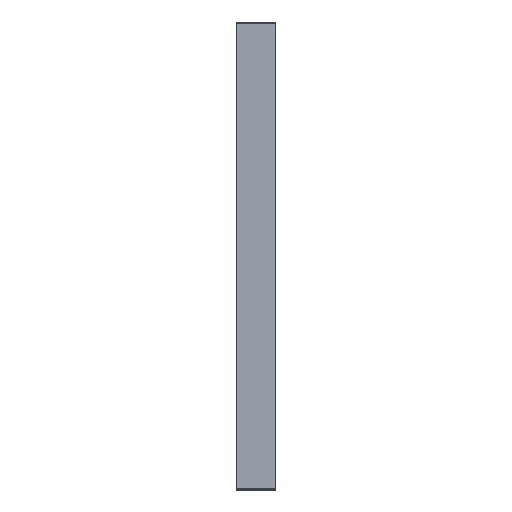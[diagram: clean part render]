
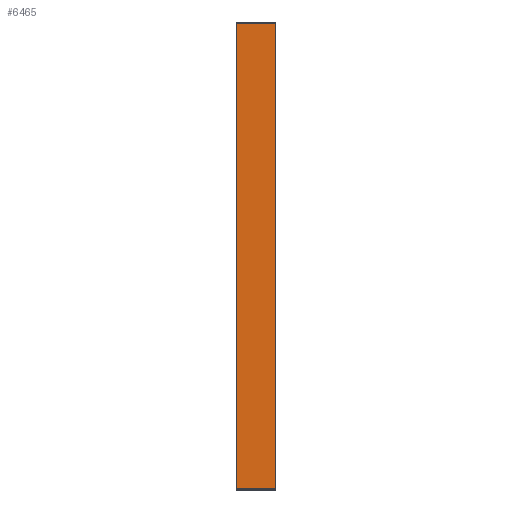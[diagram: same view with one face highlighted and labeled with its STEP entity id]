
A CAD part, left-side view. The second image highlights one B-rep face of the part: STEP entity #6465.
In plain terms, the highlighted planar face has unit normal (-1, 0, 0).
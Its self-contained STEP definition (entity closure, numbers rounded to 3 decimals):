
#217 = LINE ( 'NONE', #2711, #1871 ) ;
#1084 = EDGE_CURVE ( 'NONE', #1854, #5625, #3611, .T. ) ;
#1515 = ORIENTED_EDGE ( 'NONE', *, *, #7015, .T. ) ;
#1615 = ORIENTED_EDGE ( 'NONE', *, *, #3058, .F. ) ;
#1854 = VERTEX_POINT ( 'NONE', #4585 ) ;
#1863 = DIRECTION ( 'NONE',  ( 0., 0., -1. ) ) ;
#1871 = VECTOR ( 'NONE', #2028, 1000. ) ;
#2028 = DIRECTION ( 'NONE',  ( 0., 0., 1. ) ) ;
#2711 = CARTESIAN_POINT ( 'NONE',  ( -21.25, -0.75, 870. ) ) ;
#2741 = CARTESIAN_POINT ( 'NONE',  ( -21.25, 0., 870. ) ) ;
#3058 = EDGE_CURVE ( 'NONE', #3739, #3764, #8812, .T. ) ;
#3167 = AXIS2_PLACEMENT_3D ( 'NONE', #7244, #7922, #3876 ) ;
#3545 = VECTOR ( 'NONE', #1863, 1000. ) ;
#3611 = LINE ( 'NONE', #7775, #7224 ) ;
#3739 = VERTEX_POINT ( 'NONE', #7494 ) ;
#3764 = VERTEX_POINT ( 'NONE', #5576 ) ;
#3876 = DIRECTION ( 'NONE',  ( 0., 0., -1. ) ) ;
#4114 = DIRECTION ( 'NONE',  ( 0., -1., 0. ) ) ;
#4585 = CARTESIAN_POINT ( 'NONE',  ( -21.25, 73., 0. ) ) ;
#5203 = VECTOR ( 'NONE', #4114, 1000. ) ;
#5576 = CARTESIAN_POINT ( 'NONE',  ( -21.25, -0.75, 870. ) ) ;
#5625 = VERTEX_POINT ( 'NONE', #6541 ) ;
#5672 = FACE_OUTER_BOUND ( 'NONE', #6802, .T. ) ;
#5907 = CARTESIAN_POINT ( 'NONE',  ( -21.25, 73., 870. ) ) ;
#6465 = ADVANCED_FACE ( 'NONE', ( #5672 ), #6561, .F. ) ;
#6541 = CARTESIAN_POINT ( 'NONE',  ( -21.25, -0.75, 0. ) ) ;
#6561 = PLANE ( 'NONE',  #3167 ) ;
#6763 = ORIENTED_EDGE ( 'NONE', *, *, #1084, .T. ) ;
#6802 = EDGE_LOOP ( 'NONE', ( #6763, #1515, #1615, #7749 ) ) ;
#7015 = EDGE_CURVE ( 'NONE', #5625, #3764, #217, .T. ) ;
#7224 = VECTOR ( 'NONE', #7740, 1000. ) ;
#7244 = CARTESIAN_POINT ( 'NONE',  ( -21.25, 0., 870. ) ) ;
#7401 = EDGE_CURVE ( 'NONE', #3739, #1854, #8756, .T. ) ;
#7494 = CARTESIAN_POINT ( 'NONE',  ( -21.25, 73., 870. ) ) ;
#7740 = DIRECTION ( 'NONE',  ( 0., -1., 0. ) ) ;
#7749 = ORIENTED_EDGE ( 'NONE', *, *, #7401, .T. ) ;
#7775 = CARTESIAN_POINT ( 'NONE',  ( -21.25, 0., 0. ) ) ;
#7922 = DIRECTION ( 'NONE',  ( 1., 0., 0. ) ) ;
#8756 = LINE ( 'NONE', #5907, #3545 ) ;
#8812 = LINE ( 'NONE', #2741, #5203 ) ;
